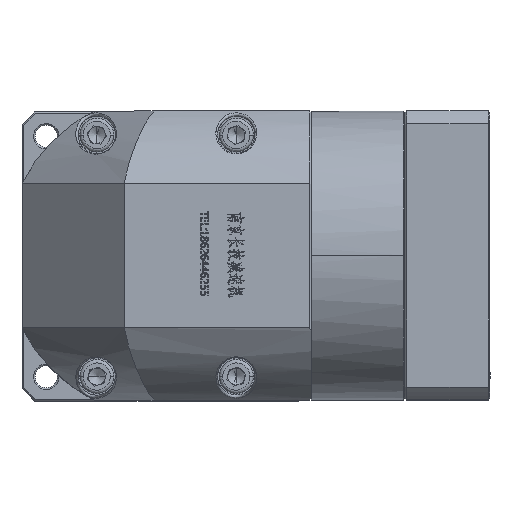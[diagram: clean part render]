
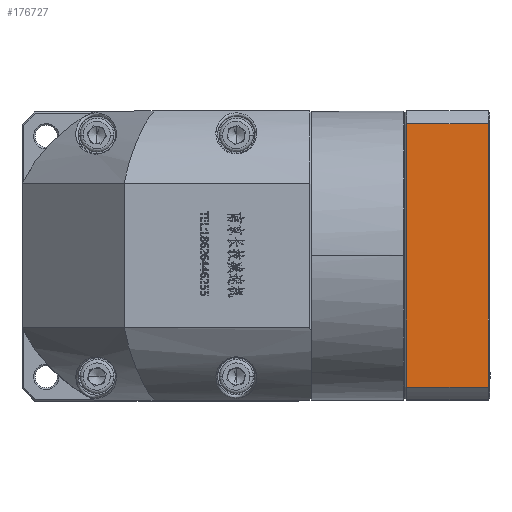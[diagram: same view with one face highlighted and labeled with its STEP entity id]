
A CAD part, top view. The second image highlights one B-rep face of the part: STEP entity #176727.
In plain terms, the highlighted planar face has unit normal (0, 0, 1).
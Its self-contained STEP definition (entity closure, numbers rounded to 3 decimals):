
#477 = ORIENTED_EDGE ( 'NONE', *, *, #96905, .F. ) ;
#1033 = CARTESIAN_POINT ( 'NONE',  ( 85.76, 183.952, 47.486 ) ) ;
#1085 = CARTESIAN_POINT ( 'NONE',  ( 85.76, 102.722, 47.486 ) ) ;
#5845 = DIRECTION ( 'NONE',  ( 0., -1., 0. ) ) ;
#12470 = CARTESIAN_POINT ( 'NONE',  ( 110.26, 102.722, 47.486 ) ) ;
#26335 = DIRECTION ( 'NONE',  ( 0., 1., 0. ) ) ;
#36660 = LINE ( 'NONE', #45348, #105141 ) ;
#45066 = CARTESIAN_POINT ( 'NONE',  ( 110.26, 183.952, 47.486 ) ) ;
#45348 = CARTESIAN_POINT ( 'NONE',  ( 109.76, 102.722, 47.486 ) ) ;
#52763 = LINE ( 'NONE', #45066, #121296 ) ;
#53606 = FACE_OUTER_BOUND ( 'NONE', #59853, .T. ) ;
#57337 = DIRECTION ( 'NONE',  ( 0., -1., 0. ) ) ;
#58881 = DIRECTION ( 'NONE',  ( 1., 0., 0. ) ) ;
#59853 = EDGE_LOOP ( 'NONE', ( #133187, #122498, #79661, #477 ) ) ;
#61581 = AXIS2_PLACEMENT_3D ( 'NONE', #12470, #108304, #26335 ) ;
#64053 = CARTESIAN_POINT ( 'NONE',  ( -79.001, 106.492, 47.486 ) ) ;
#65705 = EDGE_CURVE ( 'NONE', #133710, #133537, #36660, .T. ) ;
#73843 = EDGE_CURVE ( 'NONE', #124672, #108840, #92509, .T. ) ;
#77799 = DIRECTION ( 'NONE',  ( -1., 0., 0. ) ) ;
#79661 = ORIENTED_EDGE ( 'NONE', *, *, #65705, .F. ) ;
#80654 = LINE ( 'NONE', #64053, #149319 ) ;
#87340 = CARTESIAN_POINT ( 'NONE',  ( 85.76, 106.492, 47.486 ) ) ;
#92509 = LINE ( 'NONE', #1085, #128966 ) ;
#93916 = PLANE ( 'NONE',  #61581 ) ;
#96905 = EDGE_CURVE ( 'NONE', #124672, #133710, #52763, .T. ) ;
#103156 = EDGE_CURVE ( 'NONE', #133537, #108840, #80654, .T. ) ;
#105141 = VECTOR ( 'NONE', #5845, 1000. ) ;
#108304 = DIRECTION ( 'NONE',  ( 0., 0., -1. ) ) ;
#108840 = VERTEX_POINT ( 'NONE', #87340 ) ;
#121296 = VECTOR ( 'NONE', #58881, 1000. ) ;
#122498 = ORIENTED_EDGE ( 'NONE', *, *, #103156, .F. ) ;
#124672 = VERTEX_POINT ( 'NONE', #1033 ) ;
#128966 = VECTOR ( 'NONE', #57337, 1000. ) ;
#133187 = ORIENTED_EDGE ( 'NONE', *, *, #73843, .T. ) ;
#133537 = VERTEX_POINT ( 'NONE', #155273 ) ;
#133710 = VERTEX_POINT ( 'NONE', #144521 ) ;
#144521 = CARTESIAN_POINT ( 'NONE',  ( 109.76, 183.952, 47.486 ) ) ;
#149319 = VECTOR ( 'NONE', #77799, 1000. ) ;
#155273 = CARTESIAN_POINT ( 'NONE',  ( 109.76, 106.492, 47.486 ) ) ;
#176727 = ADVANCED_FACE ( 'NONE', ( #53606 ), #93916, .F. ) ;
